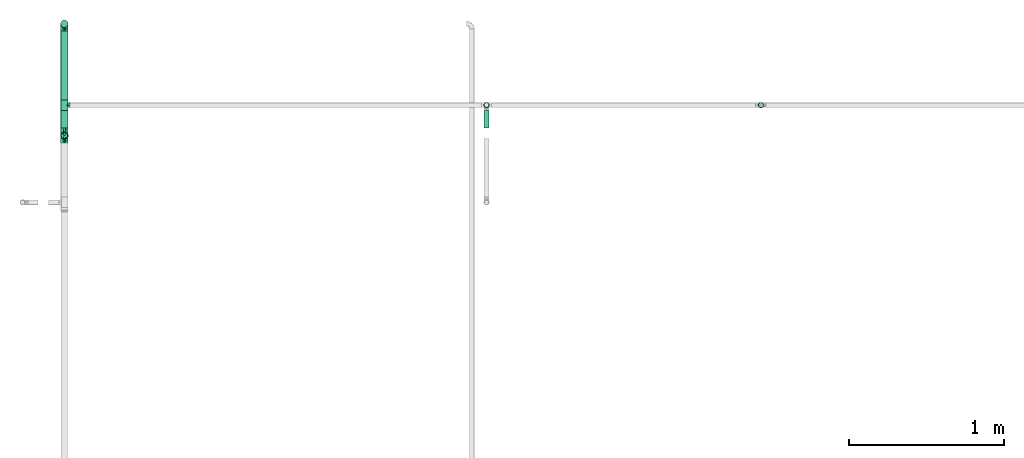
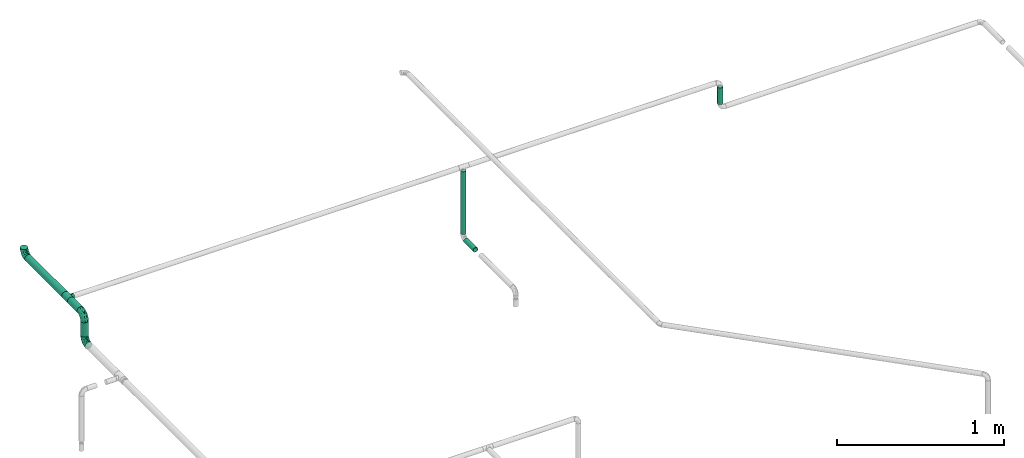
# One storey, part 6 of 17: 6 flow segments, 4 flow fittings.
"""IFC2X3 building model written with IfcOpenShell, lengths in millimetres."""

from ifc_helpers import new_model, entity, si_unit, converted_unit, derived_unit, direction, frame, origin_with_axes, origin_2d_with_axis, place, context, subcontext, project, spatial, hollow_circle, extrude, open_shell, surface_model, source, transform, mapped, type_object, element, save


model = new_model("IFC2X3")

# Units and contexts
model_context = context("Model", 3, precision=0.01, world=frame((0.0, 4.29681676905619e-09, 0.0)), true_north=direction((4.01073788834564e-13, 1.0)))
plan_context = context("Plan", 3, precision=0.01, world=frame((0.0, 4.29681676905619e-09, 0.0)), true_north=direction((4.01073788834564e-13, 1.0)))
body_context = subcontext(model_context, "Body", "Model", "MODEL_VIEW")
ifc_project = project(units=[converted_unit("PLANEANGLEUNIT", "DEGREE", entity("IfcPositiveLengthMeasure", 0.0174532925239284), si_unit("PLANEANGLEUNIT", "RADIAN"), dimensions=[0, 0, 0, 0, 0, 0, 0]), si_unit("AREAUNIT", "SQUARE_METRE"), si_unit("LENGTHUNIT", "METRE", prefix="MILLI"), si_unit("MASSUNIT", "GRAM", prefix="KILO"), si_unit("POWERUNIT", "WATT"), si_unit("PRESSUREUNIT", "PASCAL", prefix="KILO"), si_unit("FORCEUNIT", "NEWTON", prefix="KILO"), si_unit("ELECTRICVOLTAGEUNIT", "VOLT"), si_unit("ELECTRICCURRENTUNIT", "AMPERE"), si_unit("THERMODYNAMICTEMPERATUREUNIT", "DEGREE_CELSIUS"), si_unit("TIMEUNIT", "SECOND"), si_unit("VOLUMEUNIT", "CUBIC_METRE"), derived_unit("LINEARVELOCITYUNIT", [(si_unit("LENGTHUNIT", "METRE"), 1), (si_unit("TIMEUNIT", "SECOND"), -1)]), derived_unit("VOLUMETRICFLOWRATEUNIT", [(si_unit("VOLUMEUNIT", "CUBIC_METRE"), 1), (si_unit("TIMEUNIT", "SECOND"), -1)]), derived_unit("THERMALTRANSMITTANCEUNIT", [(si_unit("POWERUNIT", "WATT"), 1), (si_unit("THERMODYNAMICTEMPERATUREUNIT", "KELVIN"), -1), (si_unit("AREAUNIT", "SQUARE_METRE"), -1)]), derived_unit("SOUNDPRESSUREUNIT", [(si_unit("PRESSUREUNIT", "PASCAL"), 1)])], contexts=[model_context, plan_context])

# Site, building, storey
site_placement = place(None, frame((0.0, -4.29681676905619e-09, 0.0), z_axis=(0.0, 0.0, 1.0), x_axis=(1.0, 0.0, 0.0)))
site = spatial("IfcSite", under=ifc_project, at=site_placement, CompositionType="ELEMENT")
building_placement = place(site_placement, frame((0.0, 4.29681676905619e-09, 0.0), z_axis=(0.0, 0.0, 1.0), x_axis=(1.0, 0.0, 0.0)))
building = spatial("IfcBuilding", under=site, at=building_placement, Name="mc-building", CompositionType="ELEMENT")
storey_placement = place(building_placement, frame((0.0, 0.0, 204000.0), z_axis=(0.0, 0.0, 1.0), x_axis=(1.0, 0.0, 0.0)))
storey = spatial("IfcBuildingStorey", under=building, at=storey_placement, Name="Nivå D", CompositionType="ELEMENT", Elevation=204000.0)

# Flow fittings
pipe_fitting_type_1 = type_object("IfcPipeFittingType", Name="magi_pipe_fe_elbow_short_001", PredefinedType="BEND")
shared_shape_1 = source(origin_with_axes(), body_context, "Body", "SurfaceModel", [
    surface_model("IfcShellBasedSurfaceModel", [(-48.4, 6.26342, -23.37541), (-48.4, 0.0, -24.2), (-48.4, 17.11198, -17.11198), (-48.4, 12.1, -20.95781), (-48.4, 23.37541, -6.26342), (-48.4, 20.95781, -12.1), (-48.4, -12.1, -20.95781), (-48.4, -17.11198, -17.11198), (-48.4, -20.95781, -12.1), (-48.4, -6.26342, -23.37541), (-48.4, -23.37541, -6.26342), (-48.4, -24.2, 0.0), (-48.4, -23.37541, 6.26342), (-48.4, 23.37541, 6.26342), (-48.4, 6.26342, 23.37541), (-48.4, 20.95781, 12.1), (-48.4, 17.11198, 17.11198), (-48.4, 12.1, 20.95781), (-48.4, -12.1, 20.95781), (-48.4, -20.95781, 12.1), (-48.4, -17.11198, 17.11198), (-48.4, -6.26342, 23.37541), (-48.4, 0.0, 24.2), (-48.4, 24.2, 0.0), (-17.11198, 48.4, -17.11198), (0.0, 48.4, -24.2), (-6.26342, 48.4, -23.37541), (-12.1, 48.4, -20.95781), (-20.95781, 48.4, -12.1), (-23.37541, 48.4, -6.26342), (12.1, 48.4, -20.95781), (20.95781, 48.4, -12.1), (17.11198, 48.4, -17.11198), (6.26342, 48.4, -23.37541), (23.37541, 48.4, -6.26342), (23.37541, 48.4, 6.26342), (24.2, 48.4, 0.0), (-23.37541, 48.4, 6.26342), (-6.26342, 48.4, 23.37541), (-17.11198, 48.4, 17.11198), (-20.95781, 48.4, 12.1), (-12.1, 48.4, 20.95781), (12.1, 48.4, 20.95781), (17.11198, 48.4, 17.11198), (20.95781, 48.4, 12.1), (0.0, 48.4, 24.2), (6.26342, 48.4, 23.37541), (-24.2, 48.4, 0.0), (-35.50368, -18.80076, 13.58523), (-31.77913, -13.9618, 18.03279), (-34.50859, -21.43683, 0.0), (-21.39243, -15.41147, 12.21413), (-32.16301, -21.12203, 7.54749), (21.12203, 32.16301, 7.54749), (17.07617, 18.95745, 6.20374), (18.67365, 20.61718, 0.0), (-23.65565, 38.62451, 10.51816), (-20.21592, 37.67665, 15.89859), (-35.56981, -9.15108, 21.77256), (-36.96985, -3.20584, 23.78612), (-33.88786, 3.70953, 24.15875), (-8.84062, -10.8048, 0.0), (-18.95745, -17.07617, 6.20374), (-20.61718, -18.67365, 0.0), (-18.69715, -5.87343, 20.10488), (-24.09336, -0.21717, 23.45593), (-2.08262, -4.09091, 10.90396), (-0.40561, 0.49936, 14.45569), (-8.22634, -5.79523, 14.90978), (-37.83027, 20.17367, 15.88169), (-8.41063, 23.79825, 24.15658), (-17.92529, 17.92529, 23.61199), (-14.40991, 10.5752, 24.07534), (-41.86919, 14.6551, 19.71874), (-9.03342, 41.7434, 22.66763), (-3.31671, 36.19978, 24.14056), (-38.63654, 23.65174, 10.51655), (-38.25939, 25.77657, 5.32075), (-30.0475, 30.0475, 9.04616), (-37.30448, 9.49113, 22.86036), (-6.31688, 16.20853, 23.76192), (-12.02449, 4.43954, 22.59792), (-2.47225, 13.07459, 22.23951), (-4.32281, 4.32281, 19.78555), (13.9618, 31.77913, 18.03279), (15.41147, 21.39243, 12.21413), (18.80076, 35.50367, 13.58523), (-25.72741, 16.42033, 22.38358), (-26.59277, 10.36599, 23.76692), (3.20584, 36.96985, 23.78612), (9.15107, 35.56981, 21.77256), (5.87343, 18.69715, 20.10488), (21.43683, 34.50859, 0.0), (-23.74657, 5.93004, 24.18967), (-22.40302, 25.55556, 19.88516), (-33.3245, 16.42738, 20.3789), (-25.47357, 39.04012, 5.19167), (-30.32947, 31.74105, 4.25904), (11.04589, 19.60124, 16.55181), (-27.44219, 36.3, 0.0), (-10.46605, 32.79159, 23.04712), (-13.80953, 25.05111, 23.26361), (-17.54489, 31.27863, 20.33941), (-19.27982, 23.42922, 22.01925), (-14.78447, 40.57947, 19.81913), (-19.60124, -11.04589, 16.55181), (-25.09785, 32.07921, 13.69695), (-25.5093, 27.02629, 17.14196), (-31.08127, 26.00324, 13.49448), (0.21717, 24.09336, 23.45593), (5.51075, 8.40547, 15.32867), (-11.48597, -10.80284, 11.35932), (1.43689, -3.14326, 6.54995), (7.34882, 4.31024, 8.4514), (7.50574, 2.51208, 3.62663), (12.46453, 10.09451, 5.71609), (12.1504, 12.55391, 10.15678), (-36.3, 27.44219, 0.0), (-6.52237, -9.62364, 7.02633), (2.93595, -2.93595, 0.0), (10.8048, 8.84062, 0.0), (-19.60124, -11.04589, -16.55181), (-31.77913, -13.9618, -18.03279), (-18.69715, -5.87343, -20.10488), (-21.39243, -15.41147, -12.21413), (-37.67665, 20.21591, -15.89859), (-40.57947, 14.78447, -19.81913), (-39.04012, 25.47357, -5.19167), (-32.16301, -21.12203, -7.54749), (-30.0475, 30.0475, -9.04616), (-38.62452, 23.65565, -10.51816), (-18.95745, -17.07617, -6.20374), (-23.42922, 19.27982, -22.01926), (-25.05111, 13.80953, -23.26361), (-31.27863, 17.54489, -20.33941), (-14.6551, 41.86919, -19.71874), (-20.17367, 37.83026, -15.88169), (9.15108, 35.56981, -21.77256), (5.87343, 18.69715, -20.10488), (0.21717, 24.09336, -23.45593), (-41.7434, 9.03342, -22.66763), (-35.50368, -18.80076, -13.58523), (-35.56981, -9.15108, -21.77256), (-16.42033, 25.72741, -22.38358), (-9.49113, 37.30447, -22.86036), (-10.36599, 26.59277, -23.76692), (-36.96985, -3.20584, -23.78612), (-23.79826, 8.41063, -24.15658), (-17.92529, 17.92529, -23.61199), (-10.5752, 14.40991, -24.07534), (-36.19978, 3.31671, -24.14056), (-25.77657, 38.25939, -5.32075), (-23.65174, 38.63654, -10.51655), (-32.79159, 10.46605, -23.04712), (-31.74105, 30.32946, -4.25904), (-5.93004, 23.74657, -24.18967), (-25.55556, 22.40302, -19.88516), (-16.42738, 33.3245, -20.3789), (3.20584, 36.96985, -23.78612), (-3.70953, 33.88785, -24.15875), (18.80076, 35.50367, -13.58523), (13.9618, 31.77913, -18.03279), (7.50574, 2.51208, -3.62663), (12.46453, 10.09451, -5.71609), (-16.20853, 6.31688, -23.76192), (-4.43954, 12.02449, -22.59792), (-13.07459, 2.47225, -22.23951), (1.43689, -3.14326, -6.54995), (-6.52237, -9.62364, -7.02632), (-2.08262, -4.09091, -10.90396), (15.41147, 21.39243, -12.21413), (21.12203, 32.16301, -7.54749), (17.07617, 18.95745, -6.20374), (-32.07921, 25.09785, -13.69695), (11.04589, 19.60124, -16.55181), (12.1504, 12.55391, -10.15678), (5.51075, 8.40547, -15.32867), (-27.02629, 25.5093, -17.14196), (-26.00324, 31.08127, -13.49448), (-24.09336, -0.21717, -23.45593), (-4.32281, 4.32281, -19.78555), (-8.22634, -5.79524, -14.90978), (-11.48597, -10.80284, -11.35931), (-0.40561, 0.49936, -14.45569), (7.34882, 4.31024, -8.4514)], [open_shell([[[0, 1, 2]], [[3, 0, 2]], [[4, 5, 2]], [[6, 2, 1]], [[4, 2, 6]], [[7, 8, 6]], [[1, 9, 6]], [[8, 10, 6]], [[6, 10, 4]], [[11, 12, 10]], [[13, 4, 10]], [[14, 13, 10]], [[15, 13, 16]], [[13, 14, 17]], [[16, 13, 17]], [[10, 18, 14]], [[19, 20, 12]], [[20, 10, 12]], [[21, 22, 18]], [[20, 18, 10]], [[18, 22, 14]], [[23, 4, 13]], [[24, 25, 26]], [[24, 26, 27]], [[24, 28, 29]], [[25, 24, 30]], [[30, 24, 29]], [[30, 31, 32]], [[30, 33, 25]], [[30, 34, 31]], [[29, 34, 30]], [[34, 35, 36]], [[34, 29, 37]], [[34, 37, 38]], [[39, 37, 40]], [[41, 38, 37]], [[41, 37, 39]], [[38, 42, 34]], [[35, 43, 44]], [[35, 34, 43]], [[42, 45, 46]], [[34, 42, 43]], [[38, 45, 42]], [[37, 29, 47]], [[20, 48, 49]], [[12, 11, 50]], [[51, 48, 52]], [[53, 54, 55]], [[48, 20, 19]], [[12, 52, 19]], [[40, 56, 57]], [[49, 18, 20]], [[49, 58, 18]], [[22, 59, 60]], [[61, 62, 63]], [[58, 64, 65]], [[66, 67, 68]], [[15, 16, 69]], [[70, 71, 72]], [[17, 73, 16]], [[21, 59, 22]], [[38, 74, 75]], [[22, 60, 14]], [[15, 69, 76]], [[16, 73, 69]], [[23, 13, 77]], [[13, 15, 76]], [[77, 76, 78]], [[14, 79, 17]], [[80, 81, 82]], [[68, 83, 64]], [[84, 43, 42]], [[85, 86, 84]], [[87, 79, 88]], [[18, 58, 21]], [[45, 89, 46]], [[53, 35, 44]], [[45, 38, 75]], [[84, 90, 91]], [[44, 86, 53]], [[92, 35, 53]], [[86, 44, 43]], [[90, 42, 46]], [[53, 55, 92]], [[88, 93, 72]], [[54, 53, 85]], [[87, 94, 95]], [[78, 96, 97]], [[98, 84, 91]], [[99, 96, 47]], [[79, 14, 60]], [[96, 78, 56]], [[62, 52, 63]], [[57, 39, 40]], [[100, 70, 75]], [[101, 102, 103]], [[12, 50, 52]], [[104, 41, 39]], [[74, 38, 41]], [[57, 102, 104]], [[105, 64, 49]], [[90, 84, 42]], [[40, 37, 56]], [[56, 106, 57]], [[102, 57, 107]], [[95, 107, 69]], [[76, 108, 78]], [[100, 101, 70]], [[89, 75, 109]], [[64, 58, 49]], [[63, 52, 50]], [[59, 58, 65]], [[105, 49, 51]], [[64, 83, 81]], [[89, 90, 46]], [[36, 35, 92]], [[109, 82, 91]], [[109, 91, 90]], [[91, 83, 110]], [[111, 68, 105]], [[66, 68, 111]], [[62, 51, 52]], [[66, 112, 113]], [[114, 115, 113]], [[98, 85, 84]], [[52, 48, 19]], [[49, 48, 51]], [[84, 86, 43]], [[53, 86, 85]], [[88, 79, 60]], [[73, 79, 95]], [[96, 56, 37]], [[78, 108, 106]], [[87, 103, 94]], [[100, 74, 104]], [[108, 69, 107]], [[78, 97, 77]], [[88, 72, 71]], [[109, 75, 70]], [[81, 72, 65]], [[70, 72, 80]], [[75, 89, 45]], [[90, 89, 109]], [[58, 59, 21]], [[60, 59, 65]], [[67, 83, 68]], [[110, 113, 116]], [[88, 60, 93]], [[87, 88, 71]], [[103, 87, 71]], [[79, 87, 95]], [[101, 103, 71]], [[94, 103, 102]], [[47, 96, 37]], [[96, 99, 97]], [[99, 117, 97]], [[97, 117, 77]], [[23, 77, 117]], [[13, 76, 77]], [[60, 65, 93]], [[65, 72, 93]], [[70, 101, 71]], [[102, 101, 100]], [[69, 108, 76]], [[106, 108, 107]], [[57, 106, 107]], [[78, 106, 56]], [[57, 104, 39]], [[100, 104, 102]], [[102, 107, 94]], [[95, 94, 107]], [[64, 81, 65]], [[82, 81, 83]], [[91, 82, 83]], [[80, 82, 109]], [[70, 80, 109]], [[81, 80, 72]], [[79, 73, 17]], [[69, 73, 95]], [[104, 74, 41]], [[75, 74, 100]], [[62, 61, 118]], [[111, 62, 118]], [[113, 115, 116]], [[119, 118, 61]], [[111, 105, 51]], [[113, 112, 114]], [[120, 55, 54]], [[68, 64, 105]], [[91, 110, 98]], [[116, 98, 110]], [[62, 111, 51]], [[66, 111, 118]], [[112, 66, 118]], [[67, 113, 110]], [[118, 119, 112]], [[114, 112, 119]], [[119, 120, 114]], [[115, 120, 54]], [[120, 115, 114]], [[116, 54, 85]], [[54, 116, 115]], [[116, 85, 98]], [[113, 67, 66]], [[83, 67, 110]], [[121, 122, 123]], [[122, 121, 124]], [[5, 125, 2]], [[2, 126, 3]], [[117, 127, 23]], [[50, 10, 128]], [[127, 129, 130]], [[128, 131, 63]], [[132, 133, 134]], [[24, 135, 136]], [[137, 138, 139]], [[3, 140, 0]], [[128, 8, 141]], [[142, 6, 9]], [[128, 63, 50]], [[5, 4, 130]], [[8, 7, 141]], [[143, 144, 145]], [[146, 9, 1]], [[147, 148, 149]], [[8, 128, 10]], [[124, 141, 122]], [[150, 1, 0]], [[151, 152, 129]], [[125, 134, 126]], [[153, 147, 150]], [[127, 154, 129]], [[145, 155, 149]], [[47, 29, 151]], [[143, 156, 157]], [[152, 29, 28]], [[25, 158, 159]], [[122, 7, 6]], [[24, 27, 135]], [[144, 27, 26]], [[32, 160, 161]], [[25, 33, 158]], [[120, 162, 163]], [[130, 125, 5]], [[24, 136, 28]], [[0, 140, 150]], [[30, 161, 137]], [[142, 122, 6]], [[25, 159, 26]], [[164, 165, 166]], [[167, 168, 169]], [[31, 160, 32]], [[161, 30, 32]], [[170, 160, 171]], [[131, 128, 124]], [[36, 92, 34]], [[34, 92, 171]], [[172, 171, 55]], [[34, 171, 31]], [[144, 26, 159]], [[130, 173, 125]], [[174, 175, 176]], [[136, 152, 28]], [[30, 137, 33]], [[122, 142, 123]], [[134, 125, 177]], [[157, 177, 136]], [[152, 178, 129]], [[153, 133, 147]], [[146, 150, 179]], [[146, 142, 9]], [[11, 10, 50]], [[179, 166, 123]], [[179, 123, 142]], [[123, 180, 181]], [[138, 137, 161]], [[55, 171, 92]], [[158, 137, 139]], [[174, 161, 170]], [[138, 180, 165]], [[180, 138, 176]], [[124, 121, 182]], [[176, 183, 180]], [[61, 131, 168]], [[169, 168, 182]], [[172, 170, 171]], [[122, 141, 7]], [[128, 141, 124]], [[171, 160, 31]], [[161, 160, 170]], [[145, 144, 159]], [[135, 144, 157]], [[127, 130, 4]], [[129, 178, 173]], [[143, 132, 156]], [[153, 140, 126]], [[178, 136, 177]], [[129, 154, 151]], [[145, 149, 148]], [[179, 150, 147]], [[165, 149, 139]], [[147, 149, 164]], [[150, 146, 1]], [[142, 146, 179]], [[137, 158, 33]], [[159, 158, 139]], [[174, 138, 161]], [[184, 169, 183]], [[145, 159, 155]], [[143, 145, 148]], [[132, 143, 148]], [[144, 143, 157]], [[133, 132, 148]], [[156, 132, 134]], [[23, 127, 4]], [[127, 117, 154]], [[117, 99, 154]], [[154, 99, 151]], [[47, 151, 99]], [[29, 152, 151]], [[159, 139, 155]], [[139, 149, 155]], [[147, 133, 148]], [[134, 133, 153]], [[136, 178, 152]], [[173, 178, 177]], [[125, 173, 177]], [[129, 173, 130]], [[125, 126, 2]], [[153, 126, 134]], [[134, 177, 156]], [[157, 156, 177]], [[138, 165, 139]], [[166, 165, 180]], [[123, 166, 180]], [[164, 166, 179]], [[147, 164, 179]], [[165, 164, 149]], [[144, 135, 27]], [[136, 135, 157]], [[126, 140, 3]], [[150, 140, 153]], [[182, 131, 124]], [[168, 119, 61]], [[119, 167, 162]], [[63, 131, 61]], [[172, 163, 175]], [[172, 55, 120]], [[123, 181, 121]], [[182, 121, 181]], [[175, 174, 170]], [[176, 138, 174]], [[169, 182, 181]], [[131, 182, 168]], [[183, 169, 181]], [[167, 169, 184]], [[162, 167, 184]], [[119, 168, 167]], [[163, 162, 184]], [[120, 119, 162]], [[175, 163, 184]], [[120, 163, 172]], [[176, 175, 184]], [[172, 175, 170]], [[180, 183, 181]], [[184, 183, 176]]])]),
])
for number, where, z_axis, x_axis, name in (
    (1, (596244.66498, 405204.64073, 2980.0), (1.0, 0.0, 0.0), (0.0, 1.0, 0.0), "magi_pipe_fe_elbow_short_001"),
    (2, (596244.66498, 404481.33152, 2780.0), (-1.0, 0.0, 0.0), (0.0, 0.0, -1.0), "magi_pipe_fe_elbow_short_001"),
    (3, (596244.66498, 404481.33152, 2980.0), (-1.0, 0.0, 0.0), (0.0, 0.0, 1.0), "magi_pipe_fe_elbow_short_001"),
):
    element("IfcFlowFitting", number, at=place(storey_placement, frame(where, z_axis=z_axis, x_axis=x_axis)), inside=storey, type_object=pipe_fitting_type_1, Name=name, context=body_context, shape_type="MappedRepresentation", body=[
        mapped(shared_shape_1, transform((0.0, 0.0, 0.0), scale=1.0)),
    ])
pipe_fitting_type_2 = type_object("IfcPipeFittingType", Name="magi_pipe_fe_tee_centric_90_NOR", PredefinedType="JUNCTION")
shared_shape_2 = source(origin_with_axes(), body_context, "Body", "SurfaceModel", [
    surface_model("IfcShellBasedSurfaceModel", [(-33.8, 0.0, -24.2), (-33.8, -6.26342, -23.37541), (-33.8, 6.26342, -23.37541), (-33.8, 12.1, -20.95781), (-33.8, 17.11198, -17.11198), (-33.8, 20.95781, -12.1), (-33.8, -23.37541, -6.26342), (-33.8, 23.37541, -6.26342), (-33.8, -17.11198, -17.11198), (-33.8, -20.95781, -12.1), (-33.8, -12.1, -20.95781), (-33.8, -24.2, 0.0), (-33.8, -23.37541, 6.26342), (-33.8, 20.95781, 12.1), (-33.8, 23.37541, 6.26342), (-33.8, 24.2, 0.0), (-33.8, 12.1, 20.95781), (-33.8, 17.11198, 17.11198), (-33.8, -17.11198, 17.11198), (-33.8, 6.26342, 23.37541), (-33.8, -20.95781, 12.1), (-33.8, -12.1, 20.95781), (-33.8, -6.26342, 23.37541), (-33.8, 0.0, 24.2), (33.8, 6.26342, -23.37541), (33.8, -6.26342, -23.37541), (33.8, 0.0, -24.2), (33.8, 17.11198, -17.11198), (33.8, 12.1, -20.95781), (33.8, -23.37541, -6.26342), (33.8, 20.95781, -12.1), (33.8, 23.37541, -6.26342), (33.8, -17.11198, -17.11198), (33.8, -12.1, -20.95781), (33.8, -20.95781, -12.1), (33.8, -24.2, 0.0), (33.8, 24.2, 0.0), (33.8, 23.37541, 6.26342), (33.8, 20.95781, 12.1), (33.8, -23.37541, 6.26342), (33.8, -17.11198, 17.11198), (33.8, 12.1, 20.95781), (33.8, 17.11198, 17.11198), (33.8, 6.26342, 23.37541), (33.8, -20.95781, 12.1), (33.8, -12.1, 20.95781), (33.8, 0.0, 24.2), (33.8, -6.26342, 23.37541), (15.81824, -23.45734, 5.94922), (16.9, -24.2, 0.0), (12.87025, -21.57947, 10.95293), (33.8, -19.0349, 14.60599), (8.52813, -19.30697, 14.59044), (3.03527, -17.5853, 16.6252), (-3.04044, -17.58619, 16.62425), (-8.52961, -19.30762, 14.58958), (-33.8, -19.0349, 14.60599), (-16.9, -24.2, 0.0), (-15.81885, -23.45775, 5.9476), (-12.87368, -21.58151, 10.9489), (3.03527, -17.5853, -16.6252), (33.8, -19.0349, -14.60599), (8.52813, -19.30697, -14.59044), (-8.52961, -19.30762, -14.58958), (-33.8, -19.0349, -14.60599), (12.87025, -21.57947, -10.95293), (-3.04044, -17.58619, -16.62425), (15.81824, -23.45734, -5.94922), (-12.87368, -21.58151, -10.9489), (-15.81885, -23.45775, -5.9476), (4.37404, -36.3, -16.32415), (-16.9, -36.3, 0.0), (0.0, -36.3, -16.9), (14.63583, -36.3, -8.45), (8.45, -36.3, -14.63583), (16.32415, -36.3, -4.37404), (11.9501, -36.3, -11.9501), (-11.9501, -36.3, -11.9501), (-8.45, -36.3, -14.63583), (-4.37404, -36.3, -16.32415), (-14.63583, -36.3, -8.45), (-16.32415, -36.3, -4.37404), (16.9, -36.3, 0.0), (8.45, -36.3, 14.63583), (16.32415, -36.3, 4.37404), (14.63583, -36.3, 8.45), (-8.45, -36.3, 14.63583), (11.9501, -36.3, 11.9501), (4.37404, -36.3, 16.32415), (-16.32415, -36.3, 4.37404), (-11.9501, -36.3, 11.9501), (-14.63583, -36.3, 8.45), (0.0, -36.3, 16.9), (-4.37404, -36.3, 16.32415), (-16.35943, -23.82888, 2.9738), (16.35912, -23.82867, 2.97461), (-0.00259, -17.58575, 16.62472), (16.35912, -23.82867, -2.97461), (-0.00259, -17.58575, -16.62472), (-16.35943, -23.82888, -2.9738)], [open_shell([[[0, 1, 2]], [[3, 2, 4]], [[5, 2, 6]], [[4, 2, 5]], [[7, 5, 6]], [[8, 9, 10]], [[1, 10, 9]], [[1, 9, 2]], [[9, 6, 2]], [[6, 11, 7]], [[11, 12, 7]], [[13, 14, 15]], [[13, 15, 12]], [[16, 17, 18]], [[12, 17, 13]], [[19, 16, 18]], [[20, 18, 12]], [[18, 17, 12]], [[21, 22, 18]], [[23, 18, 22]], [[18, 23, 19]], [[7, 12, 15]], [[24, 25, 26]], [[27, 24, 28]], [[29, 24, 30]], [[30, 24, 27]], [[29, 30, 31]], [[25, 32, 33]], [[32, 25, 34]], [[24, 34, 25]], [[24, 29, 34]], [[31, 35, 29]], [[31, 36, 35]], [[36, 37, 38]], [[39, 36, 38]], [[40, 38, 41]], [[41, 38, 42]], [[40, 41, 43]], [[39, 40, 44]], [[39, 38, 40]], [[45, 46, 47]], [[46, 45, 40]], [[43, 46, 40]], [[36, 39, 35]], [[35, 39, 48]], [[48, 49, 35]], [[39, 50, 48]], [[51, 40, 52]], [[52, 50, 44]], [[53, 52, 40]], [[54, 53, 21]], [[44, 50, 39]], [[55, 18, 56]], [[57, 58, 11]], [[12, 11, 58]], [[58, 59, 12]], [[55, 54, 18]], [[55, 20, 59]], [[20, 55, 56]], [[59, 20, 12]], [[18, 54, 21]], [[52, 44, 51]], [[53, 40, 45]], [[23, 47, 46]], [[22, 45, 47]], [[19, 46, 43]], [[38, 37, 14]], [[17, 41, 42]], [[13, 42, 38]], [[43, 41, 16]], [[15, 37, 36]], [[21, 45, 22]], [[22, 47, 23]], [[19, 23, 46]], [[43, 16, 19]], [[16, 41, 17]], [[13, 17, 42]], [[14, 13, 38]], [[37, 15, 14]], [[45, 21, 53]], [[5, 31, 30]], [[7, 36, 31]], [[4, 30, 27]], [[26, 25, 1]], [[2, 28, 24]], [[0, 24, 26]], [[27, 28, 3]], [[10, 25, 33]], [[15, 36, 7]], [[7, 31, 5]], [[4, 5, 30]], [[27, 3, 4]], [[3, 28, 2]], [[0, 2, 24]], [[1, 0, 26]], [[25, 10, 1]], [[33, 60, 10]], [[61, 34, 62]], [[63, 9, 64]], [[62, 60, 32]], [[34, 65, 62]], [[66, 10, 60]], [[29, 35, 67]], [[67, 65, 29]], [[49, 67, 35]], [[29, 65, 34]], [[66, 63, 8]], [[62, 32, 61]], [[64, 8, 63]], [[63, 68, 9]], [[8, 10, 66]], [[68, 69, 6]], [[69, 11, 6]], [[11, 69, 57]], [[68, 6, 9]], [[60, 33, 32]], [[70, 71, 72]], [[73, 70, 74]], [[73, 75, 70]], [[73, 74, 76]], [[71, 70, 75]], [[72, 77, 78]], [[78, 79, 72]], [[80, 71, 81]], [[77, 72, 80]], [[71, 80, 72]], [[75, 82, 71]], [[83, 82, 84]], [[83, 84, 85]], [[86, 71, 83]], [[83, 85, 87]], [[86, 83, 88]], [[89, 90, 91]], [[90, 89, 86]], [[86, 92, 93]], [[89, 71, 86]], [[88, 92, 86]], [[83, 71, 82]], [[89, 94, 71]], [[59, 91, 90]], [[89, 91, 58]], [[90, 86, 55]], [[89, 58, 94]], [[94, 57, 71]], [[58, 91, 59]], [[95, 48, 84]], [[55, 93, 54]], [[55, 59, 90]], [[92, 53, 96]], [[55, 86, 93]], [[53, 92, 88]], [[83, 52, 88]], [[87, 85, 50]], [[87, 52, 83]], [[48, 85, 84]], [[87, 50, 52]], [[52, 53, 88]], [[82, 95, 84]], [[48, 50, 85]], [[95, 82, 49]], [[92, 54, 93]], [[96, 54, 92]], [[75, 97, 82]], [[65, 73, 76]], [[75, 73, 67]], [[76, 74, 62]], [[97, 49, 82]], [[67, 73, 65]], [[62, 70, 60]], [[62, 65, 76]], [[72, 66, 98]], [[62, 74, 70]], [[99, 71, 57]], [[99, 69, 81]], [[75, 67, 97]], [[79, 66, 72]], [[69, 80, 81]], [[77, 80, 68]], [[72, 60, 70]], [[79, 63, 66]], [[63, 79, 78]], [[78, 77, 63]], [[63, 77, 68]], [[68, 80, 69]], [[71, 99, 81]], [[98, 60, 72]]])]),
])
flow_fitting_placement = place(storey_placement, frame((596244.66498, 404678.7064, 2980.0), z_axis=(0.0, 0.0, 1.0), x_axis=(0.0, 1.0, 0.0)))
element("IfcFlowFitting", 4, at=flow_fitting_placement, inside=storey, type_object=pipe_fitting_type_2, Name="magi_pipe_fe_tee_centric_90_NOR", context=body_context, shape_type="MappedRepresentation", body=[
    mapped(shared_shape_2, transform((0.0, 0.0, 0.0), scale=1.0)),
])

# Flow segments
pipe_segment_type = type_object("IfcPipeSegmentType", Name="Stålrør normaltykke", PredefinedType="RIGIDSEGMENT")
shared_shape_3 = source(origin_with_axes(), body_context, "Body", "SweptSolid", [
    extrude(hollow_circle(Radius=16.9, WallThickness=2.0, at=origin_2d_with_axis()), frame((0.0, 0.0, 0.0), z_axis=(1.0, 0.0, 0.0), x_axis=(0.0, 1.0, 0.0)), (0.0, 0.0, 1.0), 457.9),
])
flow_segment_1_placement = place(storey_placement, frame((598972.72783, 404678.7064, 2496.848), z_axis=(1.0, 0.0, 0.0), x_axis=(0.0, 0.0, 1.0)))
element("IfcFlowSegment", 5, at=flow_segment_1_placement, inside=storey, type_object=pipe_segment_type, Name="Stålrør normaltykke", context=body_context, shape_type="MappedRepresentation", body=[
    mapped(shared_shape_3, transform((0.0, 0.0, 0.0), scale=1.0)),
])
shared_shape_4 = source(origin_with_axes(), body_context, "Body", "SweptSolid", [
    extrude(hollow_circle(Radius=16.9, WallThickness=2.0, at=origin_2d_with_axis()), frame((0.0, 0.0, 0.0), z_axis=(1.0, 0.0, 0.0), x_axis=(0.0, 1.0, 0.0)), (0.0, 0.0, 1.0), 113.6),
])
flow_segment_2_placement = place(storey_placement, frame((598972.72783, 404531.27697, 2463.04800000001), z_axis=(0.0, 0.0, 1.0), x_axis=(0.0, 1.0, 0.0)))
element("IfcFlowSegment", 6, at=flow_segment_2_placement, inside=storey, type_object=pipe_segment_type, Name="Stålrør normaltykke", context=body_context, shape_type="MappedRepresentation", body=[
    mapped(shared_shape_4, transform((0.0, 0.0, 0.0), scale=1.0)),
])
shared_shape_5 = source(origin_with_axes(), body_context, "Body", "SweptSolid", [
    extrude(hollow_circle(Radius=16.9, WallThickness=2.0, at=origin_2d_with_axis()), frame((0.0, 0.0, 0.0), z_axis=(1.0, 0.0, 0.0), x_axis=(0.0, 1.0, 0.0)), (0.0, 0.0, 1.0), 122.4),
])
flow_segment_3_placement = place(storey_placement, frame((600746.52783, 404678.69355, 2946.20000000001), z_axis=(0.0, 1.0, 0.0), x_axis=(0.0, 0.0, -1.0)))
element("IfcFlowSegment", 7, at=flow_segment_3_placement, inside=storey, type_object=pipe_segment_type, Name="Stålrør normaltykke", context=body_context, shape_type="MappedRepresentation", body=[
    mapped(shared_shape_5, transform((0.0, 0.0, 0.0), scale=1.0)),
])
shared_shape_6 = source(origin_with_axes(), body_context, "Body", "SweptSolid", [
    extrude(hollow_circle(Radius=24.1, WallThickness=2.0, at=origin_2d_with_axis()), frame((0.0, 0.0, 0.0), z_axis=(1.0, 0.0, 0.0), x_axis=(0.0, 1.0, 0.0)), (0.0, 0.0, 1.0), 443.7),
])
flow_segment_4_placement = place(storey_placement, frame((596244.66498, 405156.24073, 2980.0), z_axis=(0.0, 0.0, 1.0), x_axis=(0.0, -1.0, 0.0)))
element("IfcFlowSegment", 8, at=flow_segment_4_placement, inside=storey, type_object=pipe_segment_type, Name="Stålrør normaltykke", context=body_context, shape_type="MappedRepresentation", body=[
    mapped(shared_shape_6, transform((0.0, 0.0, 0.0), scale=1.0)),
])
shared_shape_7 = source(origin_with_axes(), body_context, "Body", "SweptSolid", [
    extrude(hollow_circle(Radius=24.1, WallThickness=2.0, at=origin_2d_with_axis()), frame((0.0, 0.0, 0.0), z_axis=(1.0, 0.0, 0.0), x_axis=(0.0, 1.0, 0.0)), (0.0, 0.0, 1.0), 115.2),
])
flow_segment_5_placement = place(storey_placement, frame((596244.66498, 404644.9064, 2980.0), z_axis=(0.0, 0.0, 1.0), x_axis=(0.0, -1.0, 0.0)))
element("IfcFlowSegment", 9, at=flow_segment_5_placement, inside=storey, type_object=pipe_segment_type, Name="Stålrør normaltykke", context=body_context, shape_type="MappedRepresentation", body=[
    mapped(shared_shape_7, transform((0.0, 0.0, 0.0), scale=1.0)),
])
shared_shape_8 = source(origin_with_axes(), body_context, "Body", "SweptSolid", [
    extrude(hollow_circle(Radius=24.1, WallThickness=2.0, at=origin_2d_with_axis()), frame((0.0, 0.0, 0.0), z_axis=(1.0, 0.0, 0.0), x_axis=(0.0, 1.0, 0.0)), (0.0, 0.0, 1.0), 103.2),
])
flow_segment_6_placement = place(storey_placement, frame((596244.66498, 404481.33152, 2828.39999999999), z_axis=(0.0, 1.0, 0.0), x_axis=(0.0, 0.0, 1.0)))
element("IfcFlowSegment", 10, at=flow_segment_6_placement, inside=storey, type_object=pipe_segment_type, Name="Stålrør normaltykke", context=body_context, shape_type="MappedRepresentation", body=[
    mapped(shared_shape_8, transform((0.0, 0.0, 0.0), scale=1.0)),
])

save(model, "model.ifc")
